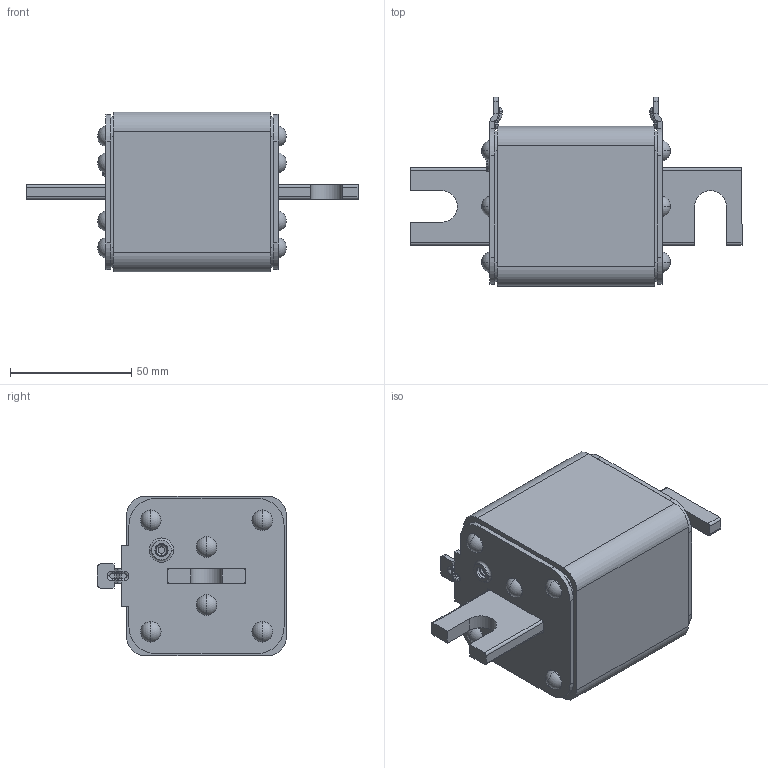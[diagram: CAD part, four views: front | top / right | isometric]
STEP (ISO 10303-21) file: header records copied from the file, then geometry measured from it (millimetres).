
FILE_DESCRIPTION (( 'STEP AP214' ), '1' );
FILE_NAME ('ﾏﾍﾁ7-690_630-500ﾀ-ﾓﾕﾋ3-ﾊﾝﾀﾇ.STEP', '2023-04-07T08:34:15', ( '' ), ( '' ), 'SwSTEP 2.0', 'SolidWorks 2018', '' );
FILE_SCHEMA (( 'AUTOMOTIVE_DESIGN' ));
Length unit declared in the file: millimetre
Products named in the file (1): ﾏﾍﾁ7-690_630-500ﾀ-ﾓﾕﾋ3-ﾊﾝﾀﾇ
Bounding box: 137 x 78 x 66 mm (x, y, z)
Volume: 314293 mm3; surface area: 35173.8 mm2
Topology: 1 solids, 17 shells, 457 faces, 1078 edges, 674 vertices
Faces by surface type: cylinder 198, plane 139, torus 80, sphere 28, bspline 8, cone 4
Entity records: 18453 total; most frequent: DIRECTION 2550, CARTESIAN_POINT 2398, ORIENTED_EDGE 2156, EDGE_CURVE 1078, AXIS2_PLACEMENT_3D 1042, VERTEX_POINT 674, CIRCLE 592, EDGE_LOOP 504
